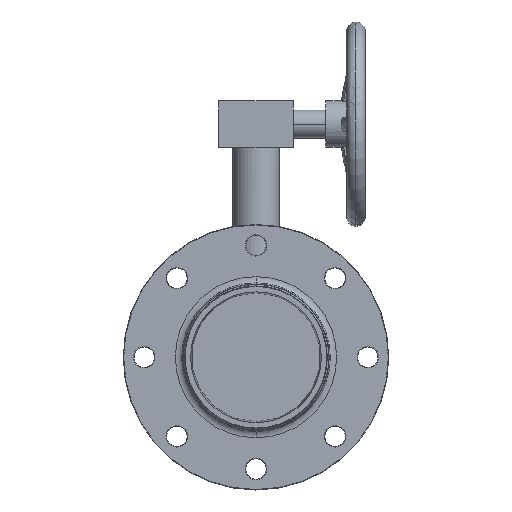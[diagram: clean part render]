
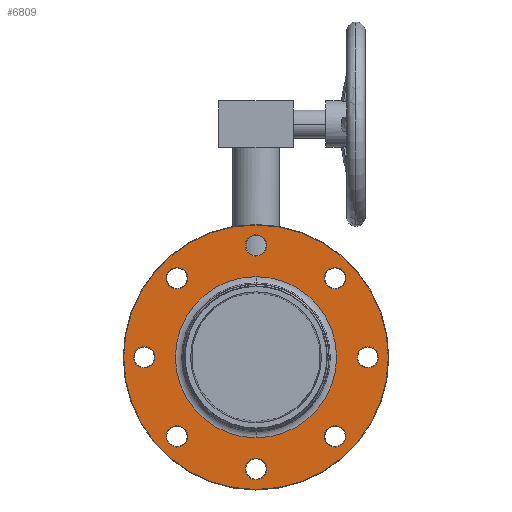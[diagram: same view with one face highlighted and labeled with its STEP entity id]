
A CAD part, front view. The second image highlights one B-rep face of the part: STEP entity #6809.
In plain terms, the highlighted planar face has unit normal (0, -1, 0).
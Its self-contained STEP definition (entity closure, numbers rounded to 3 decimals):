
#1959=CARTESIAN_POINT('',(0.,-68.19,0.));
#1960=DIRECTION('',(0.,1.,0.));
#1961=DIRECTION('',(0.,0.,-1.));
#1962=AXIS2_PLACEMENT_3D('',#1959,#1960,#1961);
#1967=CARTESIAN_POINT('',(0.,-68.19,0.));
#1968=DIRECTION('',(0.,1.,0.));
#1969=DIRECTION('',(0.,0.,1.));
#1970=AXIS2_PLACEMENT_3D('',#1967,#1968,#1969);
#1975=CARTESIAN_POINT('',(-120.392,-68.19,0.));
#1976=DIRECTION('',(0.,-1.,0.));
#1977=DIRECTION('',(0.,0.,-1.));
#1978=AXIS2_PLACEMENT_3D('',#1975,#1976,#1977);
#1983=CARTESIAN_POINT('',(-120.392,-68.19,0.));
#1984=DIRECTION('',(0.,-1.,0.));
#1985=DIRECTION('',(0.,0.,1.));
#1986=AXIS2_PLACEMENT_3D('',#1983,#1984,#1985);
#1991=CARTESIAN_POINT('',(-85.13,-68.19,85.13));
#1992=DIRECTION('',(0.,-1.,0.));
#1993=DIRECTION('',(0.,0.,-1.));
#1994=AXIS2_PLACEMENT_3D('',#1991,#1992,#1993);
#1999=CARTESIAN_POINT('',(-85.13,-68.19,85.13));
#2000=DIRECTION('',(0.,-1.,0.));
#2001=DIRECTION('',(0.,0.,1.));
#2002=AXIS2_PLACEMENT_3D('',#1999,#2000,#2001);
#2007=CARTESIAN_POINT('',(0.,-68.19,120.392));
#2008=DIRECTION('',(0.,-1.,0.));
#2009=DIRECTION('',(0.,0.,-1.));
#2010=AXIS2_PLACEMENT_3D('',#2007,#2008,#2009);
#2015=CARTESIAN_POINT('',(0.,-68.19,120.392));
#2016=DIRECTION('',(0.,-1.,0.));
#2017=DIRECTION('',(0.,0.,1.));
#2018=AXIS2_PLACEMENT_3D('',#2015,#2016,#2017);
#2023=CARTESIAN_POINT('',(85.13,-68.19,85.13));
#2024=DIRECTION('',(0.,-1.,0.));
#2025=DIRECTION('',(0.,0.,-1.));
#2026=AXIS2_PLACEMENT_3D('',#2023,#2024,#2025);
#2031=CARTESIAN_POINT('',(85.13,-68.19,85.13));
#2032=DIRECTION('',(0.,-1.,0.));
#2033=DIRECTION('',(0.,0.,1.));
#2034=AXIS2_PLACEMENT_3D('',#2031,#2032,#2033);
#2039=CARTESIAN_POINT('',(120.392,-68.19,0.));
#2040=DIRECTION('',(0.,-1.,0.));
#2041=DIRECTION('',(0.,0.,-1.));
#2042=AXIS2_PLACEMENT_3D('',#2039,#2040,#2041);
#2047=CARTESIAN_POINT('',(120.392,-68.19,0.));
#2048=DIRECTION('',(0.,-1.,0.));
#2049=DIRECTION('',(0.,0.,1.));
#2050=AXIS2_PLACEMENT_3D('',#2047,#2048,#2049);
#2055=CARTESIAN_POINT('',(85.13,-68.19,-85.13));
#2056=DIRECTION('',(0.,-1.,0.));
#2057=DIRECTION('',(0.,0.,-1.));
#2058=AXIS2_PLACEMENT_3D('',#2055,#2056,#2057);
#2063=CARTESIAN_POINT('',(85.13,-68.19,-85.13));
#2064=DIRECTION('',(0.,-1.,0.));
#2065=DIRECTION('',(0.,0.,1.));
#2066=AXIS2_PLACEMENT_3D('',#2063,#2064,#2065);
#2071=CARTESIAN_POINT('',(0.,-68.19,-120.392));
#2072=DIRECTION('',(0.,-1.,0.));
#2073=DIRECTION('',(0.,0.,-1.));
#2074=AXIS2_PLACEMENT_3D('',#2071,#2072,#2073);
#2079=CARTESIAN_POINT('',(0.,-68.19,-120.392));
#2080=DIRECTION('',(0.,-1.,0.));
#2081=DIRECTION('',(0.,0.,1.));
#2082=AXIS2_PLACEMENT_3D('',#2079,#2080,#2081);
#2087=CARTESIAN_POINT('',(-85.13,-68.19,-85.13));
#2088=DIRECTION('',(0.,-1.,0.));
#2089=DIRECTION('',(0.,0.,-1.));
#2090=AXIS2_PLACEMENT_3D('',#2087,#2088,#2089);
#2095=CARTESIAN_POINT('',(-85.13,-68.19,-85.13));
#2096=DIRECTION('',(0.,-1.,0.));
#2097=DIRECTION('',(0.,0.,1.));
#2098=AXIS2_PLACEMENT_3D('',#2095,#2096,#2097);
#2103=CARTESIAN_POINT('',(0.,-68.19,0.));
#2104=DIRECTION('',(0.,-1.,0.));
#2105=DIRECTION('',(0.,0.,-1.));
#2106=AXIS2_PLACEMENT_3D('',#2103,#2104,#2105);
#2111=CARTESIAN_POINT('',(0.,-68.19,0.));
#2112=DIRECTION('',(0.,-1.,0.));
#2113=DIRECTION('',(0.,0.,1.));
#2114=AXIS2_PLACEMENT_3D('',#2111,#2112,#2113);
#4876=CARTESIAN_POINT('',(0.,-68.19,142.464));
#4877=CARTESIAN_POINT('',(0.,-68.19,-142.464));
#4878=VERTEX_POINT('',#4876);
#4879=VERTEX_POINT('',#4877);
#4880=CARTESIAN_POINT('',(-120.392,-68.19,-11.538));
#4881=CARTESIAN_POINT('',(-120.392,-68.19,11.538));
#4882=VERTEX_POINT('',#4880);
#4883=VERTEX_POINT('',#4881);
#4884=CARTESIAN_POINT('',(-85.13,-68.19,73.593));
#4885=CARTESIAN_POINT('',(-85.13,-68.19,96.668));
#4886=VERTEX_POINT('',#4884);
#4887=VERTEX_POINT('',#4885);
#4888=CARTESIAN_POINT('',(0.,-68.19,108.855));
#4889=CARTESIAN_POINT('',(0.,-68.19,131.93));
#4890=VERTEX_POINT('',#4888);
#4891=VERTEX_POINT('',#4889);
#4892=CARTESIAN_POINT('',(85.13,-68.19,73.593));
#4893=CARTESIAN_POINT('',(85.13,-68.19,96.668));
#4894=VERTEX_POINT('',#4892);
#4895=VERTEX_POINT('',#4893);
#4896=CARTESIAN_POINT('',(120.392,-68.19,-11.538));
#4897=CARTESIAN_POINT('',(120.392,-68.19,11.538));
#4898=VERTEX_POINT('',#4896);
#4899=VERTEX_POINT('',#4897);
#4900=CARTESIAN_POINT('',(85.13,-68.19,-96.668));
#4901=CARTESIAN_POINT('',(85.13,-68.19,-73.593));
#4902=VERTEX_POINT('',#4900);
#4903=VERTEX_POINT('',#4901);
#4904=CARTESIAN_POINT('',(0.,-68.19,-131.93));
#4905=CARTESIAN_POINT('',(0.,-68.19,-108.855));
#4906=VERTEX_POINT('',#4904);
#4907=VERTEX_POINT('',#4905);
#4908=CARTESIAN_POINT('',(-85.13,-68.19,-96.668));
#4909=CARTESIAN_POINT('',(-85.13,-68.19,-73.593));
#4910=VERTEX_POINT('',#4908);
#4911=VERTEX_POINT('',#4909);
#4912=CARTESIAN_POINT('',(0.,-68.19,-86.783));
#4913=CARTESIAN_POINT('',(0.,-68.19,86.783));
#4914=VERTEX_POINT('',#4912);
#4915=VERTEX_POINT('',#4913);
#6745=CARTESIAN_POINT('',(-129.422,-68.19,0.));
#6746=DIRECTION('',(0.,-1.,0.));
#6747=DIRECTION('',(0.,0.,-1.));
#6748=AXIS2_PLACEMENT_3D('',#6745,#6746,#6747);
#6749=PLANE('',#6748);
#6751=ORIENTED_EDGE('',*,*,#6750,.T.);
#6752=ORIENTED_EDGE('',*,*,#6735,.T.);
#6753=EDGE_LOOP('',(#6751,#6752));
#6754=FACE_OUTER_BOUND('',#6753,.F.);
#6756=ORIENTED_EDGE('',*,*,#6755,.T.);
#6758=ORIENTED_EDGE('',*,*,#6757,.T.);
#6759=EDGE_LOOP('',(#6756,#6758));
#6760=FACE_BOUND('',#6759,.F.);
#6762=ORIENTED_EDGE('',*,*,#6761,.T.);
#6764=ORIENTED_EDGE('',*,*,#6763,.T.);
#6765=EDGE_LOOP('',(#6762,#6764));
#6766=FACE_BOUND('',#6765,.F.);
#6768=ORIENTED_EDGE('',*,*,#6767,.T.);
#6770=ORIENTED_EDGE('',*,*,#6769,.T.);
#6771=EDGE_LOOP('',(#6768,#6770));
#6772=FACE_BOUND('',#6771,.F.);
#6774=ORIENTED_EDGE('',*,*,#6773,.T.);
#6776=ORIENTED_EDGE('',*,*,#6775,.T.);
#6777=EDGE_LOOP('',(#6774,#6776));
#6778=FACE_BOUND('',#6777,.F.);
#6780=ORIENTED_EDGE('',*,*,#6779,.T.);
#6782=ORIENTED_EDGE('',*,*,#6781,.T.);
#6783=EDGE_LOOP('',(#6780,#6782));
#6784=FACE_BOUND('',#6783,.F.);
#6786=ORIENTED_EDGE('',*,*,#6785,.T.);
#6788=ORIENTED_EDGE('',*,*,#6787,.T.);
#6789=EDGE_LOOP('',(#6786,#6788));
#6790=FACE_BOUND('',#6789,.F.);
#6792=ORIENTED_EDGE('',*,*,#6791,.T.);
#6794=ORIENTED_EDGE('',*,*,#6793,.T.);
#6795=EDGE_LOOP('',(#6792,#6794));
#6796=FACE_BOUND('',#6795,.F.);
#6798=ORIENTED_EDGE('',*,*,#6797,.T.);
#6800=ORIENTED_EDGE('',*,*,#6799,.T.);
#6801=EDGE_LOOP('',(#6798,#6800));
#6802=FACE_BOUND('',#6801,.F.);
#6804=ORIENTED_EDGE('',*,*,#6803,.T.);
#6806=ORIENTED_EDGE('',*,*,#6805,.T.);
#6807=EDGE_LOOP('',(#6804,#6806));
#6808=FACE_BOUND('',#6807,.F.);
#1963=CIRCLE('',#1962,142.464);
#1971=CIRCLE('',#1970,142.464);
#1979=CIRCLE('',#1978,11.538);
#1987=CIRCLE('',#1986,11.538);
#1995=CIRCLE('',#1994,11.538);
#2003=CIRCLE('',#2002,11.538);
#2011=CIRCLE('',#2010,11.538);
#2019=CIRCLE('',#2018,11.538);
#2027=CIRCLE('',#2026,11.538);
#2035=CIRCLE('',#2034,11.538);
#2043=CIRCLE('',#2042,11.538);
#2051=CIRCLE('',#2050,11.538);
#2059=CIRCLE('',#2058,11.538);
#2067=CIRCLE('',#2066,11.538);
#2075=CIRCLE('',#2074,11.538);
#2083=CIRCLE('',#2082,11.538);
#2091=CIRCLE('',#2090,11.538);
#2099=CIRCLE('',#2098,11.538);
#2107=CIRCLE('',#2106,86.783);
#2115=CIRCLE('',#2114,86.783);
#6735=EDGE_CURVE('',#4878,#4879,#1971,.T.);
#6750=EDGE_CURVE('',#4879,#4878,#1963,.T.);
#6755=EDGE_CURVE('',#4882,#4883,#1979,.T.);
#6757=EDGE_CURVE('',#4883,#4882,#1987,.T.);
#6761=EDGE_CURVE('',#4886,#4887,#1995,.T.);
#6763=EDGE_CURVE('',#4887,#4886,#2003,.T.);
#6767=EDGE_CURVE('',#4890,#4891,#2011,.T.);
#6769=EDGE_CURVE('',#4891,#4890,#2019,.T.);
#6773=EDGE_CURVE('',#4894,#4895,#2027,.T.);
#6775=EDGE_CURVE('',#4895,#4894,#2035,.T.);
#6779=EDGE_CURVE('',#4898,#4899,#2043,.T.);
#6781=EDGE_CURVE('',#4899,#4898,#2051,.T.);
#6785=EDGE_CURVE('',#4902,#4903,#2059,.T.);
#6787=EDGE_CURVE('',#4903,#4902,#2067,.T.);
#6791=EDGE_CURVE('',#4906,#4907,#2075,.T.);
#6793=EDGE_CURVE('',#4907,#4906,#2083,.T.);
#6797=EDGE_CURVE('',#4910,#4911,#2091,.T.);
#6799=EDGE_CURVE('',#4911,#4910,#2099,.T.);
#6803=EDGE_CURVE('',#4914,#4915,#2107,.T.);
#6805=EDGE_CURVE('',#4915,#4914,#2115,.T.);
#6809=ADVANCED_FACE('',(#6754,#6760,#6766,#6772,#6778,#6784,#6790,#6796,#6802,
#6808),#6749,.T.);
